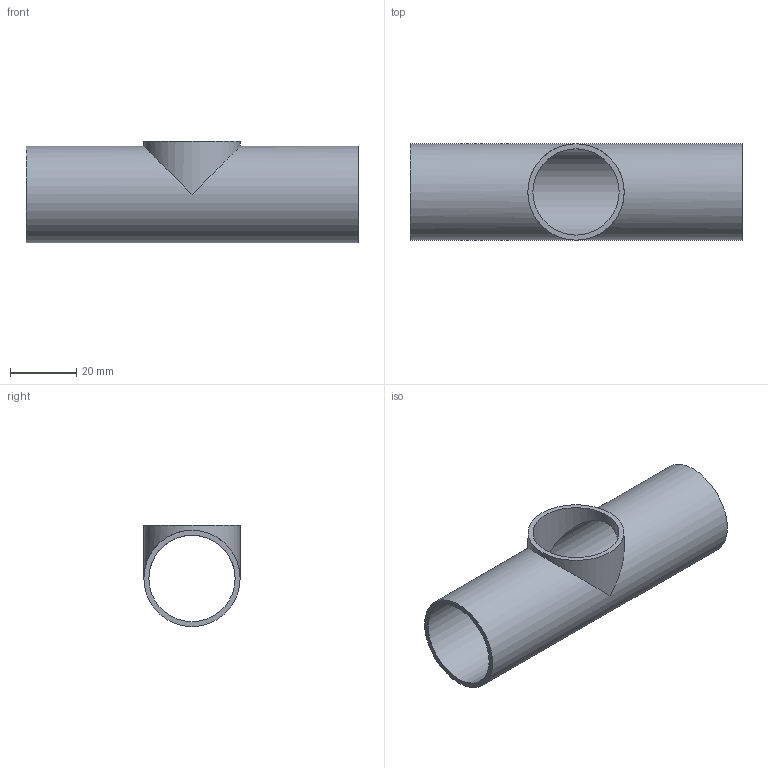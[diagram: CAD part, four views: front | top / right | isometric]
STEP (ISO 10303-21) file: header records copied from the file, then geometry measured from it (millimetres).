
FILE_DESCRIPTION(('FreeCAD Model'),'2;1');
FILE_NAME( '/home/martin/Documents/proyect/accesorios/stp/te_short_DN-25.step', '2018-01-07T08:12:00',('Author'),(''), 'Open CASCADE STEP processor 6.8','FreeCAD','Unknown');
FILE_SCHEMA(('AUTOMOTIVE_DESIGN_CC2 { 1 2 10303 214 -1 1 5 4 }'));
Length unit declared in the file: millimetre
Products named in the file (1): te_short_DN-25
Bounding box: 100 x 29 x 30.5 mm (x, y, z)
Volume: 12761.5 mm3; surface area: 17398.1 mm2
Topology: 1 solids, 1 shells, 7 faces, 16 edges, 12 vertices
Faces by surface type: cylinder 4, plane 3
Full cylindrical faces by diameter (mm): 26 x2, 29 x2
Entity records: 531 total; most frequent: CARTESIAN_POINT 172, DIRECTION 64, ORIENTED_EDGE 32, PCURVE 32, DEFINITIONAL_REPRESENTATION 32, AXIS2_PLACEMENT_3D 20, LINE 18, VECTOR 18
